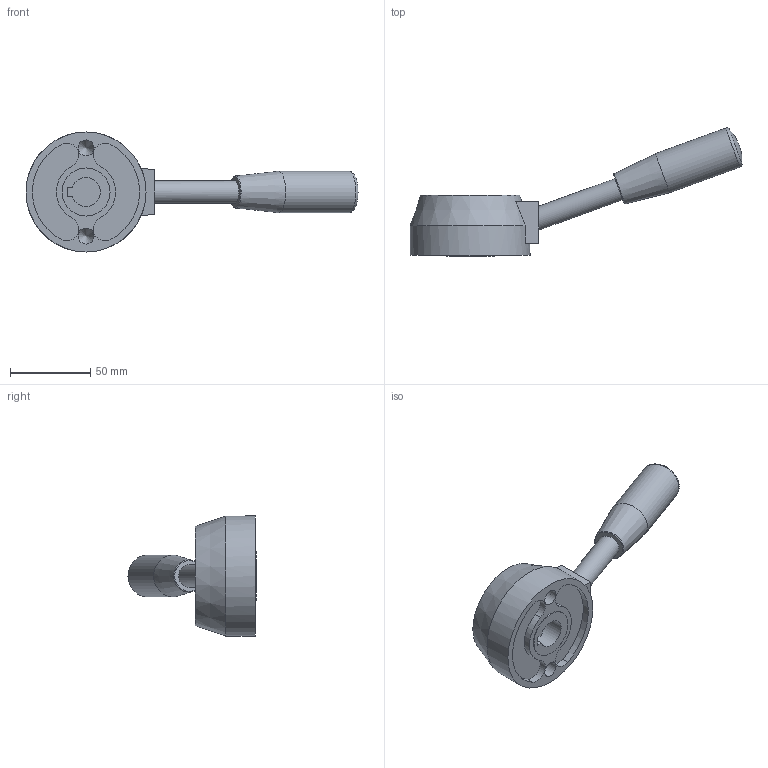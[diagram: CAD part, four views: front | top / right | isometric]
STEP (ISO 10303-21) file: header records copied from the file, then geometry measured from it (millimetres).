
FILE_DESCRIPTION( ( 'STEP AP203' ), '1' );
FILE_NAME( 'C:/Temp/Ganter_Step_05_03_2020/data/2_1/gn_512/gn_512_k/Control lever GN 512-75-K18.stp', '2020-03-05T11:51:41', ( 'License CC BY-ND 4.0' ), ( 'CADENAS' ), ' ', 'PARTsolutions', ' ' );
FILE_SCHEMA( ( 'CONFIG_CONTROL_DESIGN' ) );
Length unit declared in the file: millimetre
Products named in the file (1): _Control lever GN 512-75-K18
Bounding box: 207.44 x 80.09 x 75 mm (x, y, z)
Volume: 181734 mm3; surface area: 31282.1 mm2
Topology: 1 solids, 1 shells, 39 faces, 89 edges, 58 vertices
Faces by surface type: plane 16, cylinder 16, cone 4, torus 2, sphere 1
Full cylindrical faces by diameter (mm): 10 x2, 14 x1, 26 x1, 30 x1, 42 x1, 75 x1
Entity records: 1034 total; most frequent: DIRECTION 184, CARTESIAN_POINT 168, ORIENTED_EDGE 136, AXIS2_PLACEMENT_3D 78, EDGE_CURVE 68, EDGE_LOOP 59, VERTEX_POINT 54, FACE_OUTER_BOUND 48
